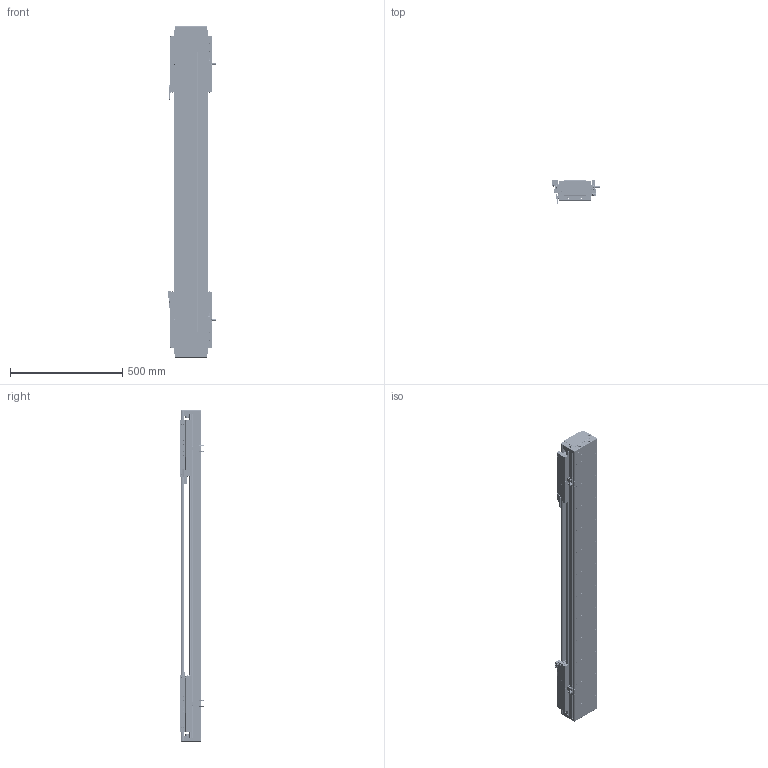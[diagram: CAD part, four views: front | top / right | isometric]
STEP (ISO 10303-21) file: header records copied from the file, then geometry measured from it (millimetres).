
FILE_DESCRIPTION (( 'STEP AP203' ), '1' );
FILE_NAME ('DA-C145-2-C3-T860-C010-0.2 眻盄萇儂.STEP', '2025-08-13T10:17:47', ( '' ), ( '' ), 'SwSTEP 2.0', 'SolidWorks 2019', '' );
FILE_SCHEMA (( 'CONFIG_CONTROL_DESIGN' ));
Length unit declared in the file: millimetre
Products named in the file (35): CU145-W 幗紩賑怢-1; DKW168-HXJ-ZJ-00 笢潔滅袉砎蝶; DKW-GYP-ZJ-00 笢潔嫖萇覜茼え; DKW-KGZ-ZJ-00 中间光电开关支架; 葩璃 DA145-T-003-00 裔啣^DA-C145-2-C3-T-C010-0.2; CU145-W-00 珨极趙賑雄怢啣; 复件 DA145-GYP-00 光电感应片^DA-C145-2-C3-T-C010-0.2; 复件 半圆头内六角螺钉 M3×6^CU145-W 滚珠滑台; 葩璃 CKM03-W060-C1C2-TP-0.2^DA-C145-2-C3-T-C010-0.2; 复件 DA145-C3-DK-00 挡块^CU145-W 滚珠滑台; 葩璃 鞠褒情蹟譫 M3^DA-C145-2-C3-T-C010-0.2; 葩璃 DMA-010-0.2 黍杅芛^DA-C145-2-C3-T-C010-0.2; CU145-W-00 珨极趙賑雄怢啣-1; 66245-CU145-HT-W-00 賑雄怢啣(3D芞祧)(00); DA-C145-2-C3-T860-C010-0.2 眻盄萇儂; 复件 内六角平端紧定螺钉 GB.T77-2000 M5×10^CU145-W 滚珠滑台; TAY01-M8; 复件 DA95-MFP-01 密封片^CU145-W 滚珠滑台; 葩璃 DA145-C3-DP-B-00 菜えB^CU145-W 幗紩賑怢; 葩璃 PM-T45^DA-C145-2-C3-T-C010-0.2; 葩璃 DA145-C3-DP-A-00 菜えA^CU145-W 幗紩賑怢; 葩璃 CKMA01-W060-TRL^DA-C145-2-C3-T-C010-0.2; 复件 DA145-C3-YB-B-00 压板B^CU145-W 滚珠滑台; CU145-W 幗紩賑怢; 葩璃 DA145-DG-H-N-00 傷裔^DA-C145-2-C3-T-C010-0.2; IU-CU145-L-00 菁釱(L1440); 复件 纯铜油杯 6x6mm^CU145-W 滚珠滑台; 复件 DA145-C3-YB-A-00 压板A^CU145-W 滚珠滑台; 葩璃 XD-U-02L 棠掑喜^DA-C145-2-C3-T-C010-0.2; 复件 DA95-DB-00  挡板^CU145-W 滚珠滑台; IU-CU145-L 菁釱絳寢; 葩璃 DA95-HXJ-00 遣喳砎蝶^DA-C145-2-C3-T-C010-0.2; 复件 DA95-HK-GT-00 滑块钢轨^CU145-W-00 一体化滑动台板; 葩璃 PM-Y65^DA-C145-2-C3-T-C010-0.2; 葩璃 DA95-GT-T-00^IU-CU145-L 菁釱絳寢
Assembly tree (175 placements, depth 4):
  DA-C145-2-C3-T860-C010-0.2 眻盄萇儂
    IU-CU145-L 菁釱絳寢
      IU-CU145-L-00 菁釱(L1440)
      葩璃 DA95-GT-T-00^IU-CU145-L 菁釱絳寢  x4
    CU145-W 幗紩賑怢
      CU145-W-00 珨极趙賑雄怢啣
        66245-CU145-HT-W-00 賑雄怢啣(3D芞祧)(00)
        复件 DA95-HK-GT-00 滑块钢轨^CU145-W-00 一体化滑动台板  x8
      复件 DA95-MFP-01 密封片^CU145-W 滚珠滑台  x8
      复件 DA95-DB-00  挡板^CU145-W 滚珠滑台  x8
      复件 内六角平端紧定螺钉 GB.T77-2000 M5×10^CU145-W 滚珠滑台  x4
      复件 纯铜油杯 6x6mm^CU145-W 滚珠滑台  x4
      复件 半圆头内六角螺钉 M3×6^CU145-W 滚珠滑台  x16
      复件 DA145-C3-DK-00 挡块^CU145-W 滚珠滑台  x4
      葩璃 DA145-C3-DP-B-00 菜えB^CU145-W 幗紩賑怢  x2
      复件 DA145-C3-YB-B-00 压板B^CU145-W 滚珠滑台  x2
      葩璃 DA145-C3-DP-A-00 菜えA^CU145-W 幗紩賑怢  x3
      复件 DA145-C3-YB-A-00 压板A^CU145-W 滚珠滑台  x3
      TAY01-M8  x4
    CU145-W 幗紩賑怢-1
      CU145-W-00 珨极趙賑雄怢啣-1
        66245-CU145-HT-W-00 賑雄怢啣(3D芞祧)(00)
        复件 DA95-HK-GT-00 滑块钢轨^CU145-W-00 一体化滑动台板  x8
      复件 DA95-MFP-01 密封片^CU145-W 滚珠滑台  x8
      复件 DA95-DB-00  挡板^CU145-W 滚珠滑台  x8
      复件 内六角平端紧定螺钉 GB.T77-2000 M5×10^CU145-W 滚珠滑台  x4
      复件 纯铜油杯 6x6mm^CU145-W 滚珠滑台  x4
      复件 半圆头内六角螺钉 M3×6^CU145-W 滚珠滑台  x16
      复件 DA145-C3-DK-00 挡块^CU145-W 滚珠滑台  x4
      葩璃 DA145-C3-DP-B-00 菜えB^CU145-W 幗紩賑怢  x2
      复件 DA145-C3-YB-B-00 压板B^CU145-W 滚珠滑台  x2
      葩璃 DA145-C3-DP-A-00 菜えA^CU145-W 幗紩賑怢  x3
      复件 DA145-C3-YB-A-00 压板A^CU145-W 滚珠滑台  x3
      TAY01-M8  x4
    葩璃 CKMA01-W060-TRL^DA-C145-2-C3-T-C010-0.2
    葩璃 PM-T45^DA-C145-2-C3-T-C010-0.2  x4
    葩璃 XD-U-02L 棠掑喜^DA-C145-2-C3-T-C010-0.2
    葩璃 DA145-DG-H-N-00 傷裔^DA-C145-2-C3-T-C010-0.2  x2
    葩璃 DA145-T-003-00 裔啣^DA-C145-2-C3-T-C010-0.2
    葩璃 DA95-HXJ-00 遣喳砎蝶^DA-C145-2-C3-T-C010-0.2  x4
    葩璃 CKM03-W060-C1C2-TP-0.2^DA-C145-2-C3-T-C010-0.2  x2
    葩璃 DMA-010-0.2 黍杅芛^DA-C145-2-C3-T-C010-0.2  x2
    复件 DA145-GYP-00 光电感应片^DA-C145-2-C3-T-C010-0.2  x2
    DKW-GYP-ZJ-00 笢潔嫖萇覜茼え
    DKW-KGZ-ZJ-00 中间光电开关支架
    葩璃 PM-Y65^DA-C145-2-C3-T-C010-0.2
    葩璃 鞠褒情蹟譫 M3^DA-C145-2-C3-T-C010-0.2  x8
    DKW168-HXJ-ZJ-00 笢潔滅袉砎蝶
Bounding box: 213.7 x 108.45 x 1480 mm (x, y, z)
Volume: 10799065 mm3; surface area: 3076184.3 mm2
Topology: 171 solids, 235 shells, 7034 faces, 18424 edges, 11315 vertices
Faces by surface type: plane 2936, cylinder 2810, cone 1120, torus 152, sphere 8, bspline 8
Entity records: 113503 total; most frequent: CARTESIAN_POINT 29276, ORIENTED_EDGE 16012, DIRECTION 15943, EDGE_CURVE 8006, AXIS2_PLACEMENT_3D 5803, VERTEX_POINT 5164, LINE 4337, VECTOR 4337
